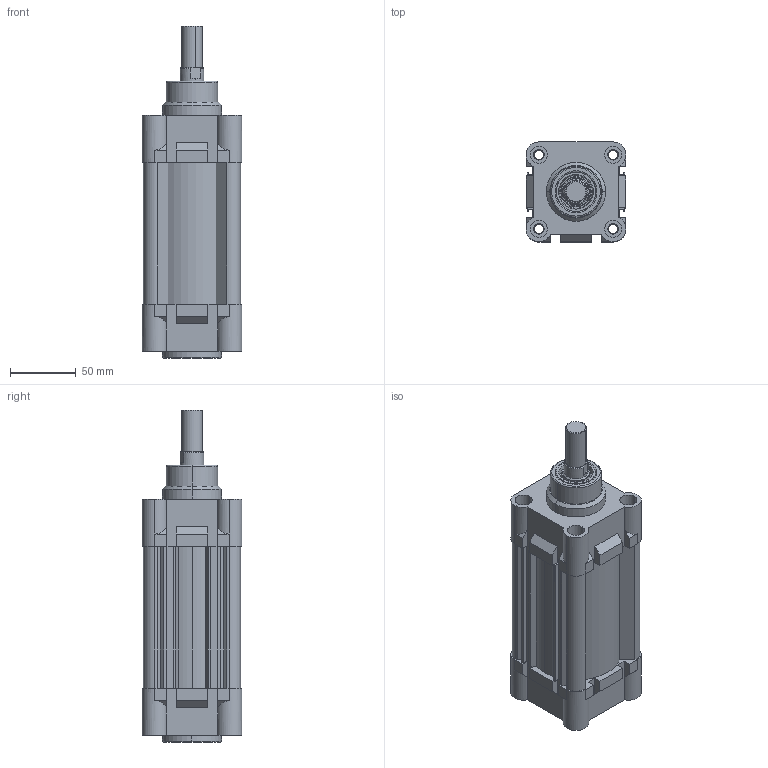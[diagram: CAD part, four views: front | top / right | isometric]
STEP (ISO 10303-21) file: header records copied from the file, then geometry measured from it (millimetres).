
FILE_DESCRIPTION (( 'STEP AP214' ), '1' );
FILE_NAME ('RIC_63_75_WEB.STEP', '2020-07-18T16:26:28', ( '' ), ( '' ), 'SwSTEP 2.0', 'SolidWorks 2018', '' );
FILE_SCHEMA (( 'AUTOMOTIVE_DESIGN' ));
Length unit declared in the file: millimetre
Products named in the file (7): 20_K_MIL_WEB; ric63yastikkecesi; ric63bogazkecesi; 63_BORU_WEB; ric63onkapak; RIC_63_75_WEB; ric63arkakapak
Assembly tree (7 placements, depth 2):
  RIC_63_75_WEB
    63_BORU_WEB
    ric63onkapak
    ric63arkakapak
    ric63bogazkecesi
    ric63yastikkecesi  x2
    20_K_MIL_WEB
Bounding box: 76 x 76 x 253 mm (x, y, z)
Volume: 546192.5 mm3; surface area: 163146.1 mm2
Topology: 7 solids, 7 shells, 709 faces, 1751 edges, 1102 vertices
Faces by surface type: plane 280, cylinder 220, torus 134, cone 56, bspline 19
Entity records: 21075 total; most frequent: CARTESIAN_POINT 4906, DIRECTION 3090, ORIENTED_EDGE 2910, EDGE_CURVE 1455, AXIS2_PLACEMENT_3D 1135, VERTEX_POINT 925, LINE 820, VECTOR 820
